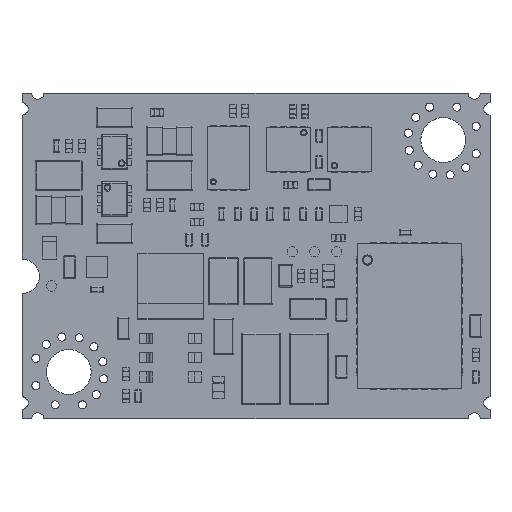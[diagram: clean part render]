
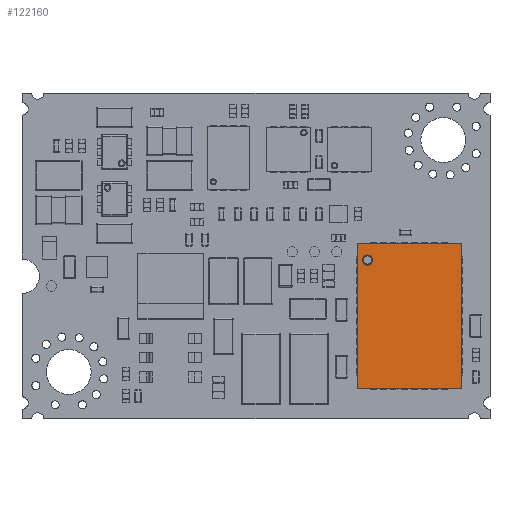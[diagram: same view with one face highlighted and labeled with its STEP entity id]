
A CAD part, top view. The second image highlights one B-rep face of the part: STEP entity #122160.
In plain terms, the highlighted planar face has unit normal (0, 0, 1).
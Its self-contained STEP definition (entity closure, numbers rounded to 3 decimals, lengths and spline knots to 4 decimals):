
#11227=DIRECTION('',(0.,1.,0.));
#11228=VECTOR('',#11227,7.1);
#11229=CARTESIAN_POINT('',(16.48,1.5,1.));
#11230=LINE('',#11229,#11228);
#12073=DIRECTION('',(-1.,0.,0.));
#12074=VECTOR('',#12073,5.1);
#12075=CARTESIAN_POINT('',(21.58,1.5,1.));
#12076=LINE('',#12075,#12074);
#12139=CARTESIAN_POINT('',(16.98,7.8,1.));
#12140=DIRECTION('',(0.,0.,-1.));
#12141=DIRECTION('',(1.,0.,0.));
#12142=AXIS2_PLACEMENT_3D('',#12139,#12140,#12141);
#12144=CARTESIAN_POINT('',(16.98,7.8,1.));
#12145=DIRECTION('',(0.,0.,-1.));
#12146=DIRECTION('',(-1.,0.,0.));
#12147=AXIS2_PLACEMENT_3D('',#12144,#12145,#12146);
#12169=DIRECTION('',(1.,0.,0.));
#12170=VECTOR('',#12169,5.1);
#12171=CARTESIAN_POINT('',(16.48,8.6,1.));
#12172=LINE('',#12171,#12170);
#12235=DIRECTION('',(0.,-1.,0.));
#12236=VECTOR('',#12235,7.1);
#12237=CARTESIAN_POINT('',(21.58,8.6,1.));
#12238=LINE('',#12237,#12236);
#91233=CARTESIAN_POINT('',(16.73,7.8,1.));
#91234=VERTEX_POINT('',#91233);
#91235=CARTESIAN_POINT('',(17.23,7.8,1.));
#91236=VERTEX_POINT('',#91235);
#91238=CARTESIAN_POINT('',(16.48,8.6,1.));
#91240=VERTEX_POINT('',#91238);
#91241=CARTESIAN_POINT('',(21.58,8.6,1.));
#91242=VERTEX_POINT('',#91241);
#91246=CARTESIAN_POINT('',(16.48,1.5,1.));
#91248=VERTEX_POINT('',#91246);
#91250=CARTESIAN_POINT('',(21.58,1.5,1.));
#91252=VERTEX_POINT('',#91250);
#122141=CARTESIAN_POINT('',(19.03,5.05,1.));
#122142=DIRECTION('',(0.,0.,1.));
#122143=DIRECTION('',(-1.,0.,0.));
#122144=AXIS2_PLACEMENT_3D('',#122141,#122142,#122143);
#122145=PLANE('',#122144);
#122147=ORIENTED_EDGE('',*,*,#122146,.T.);
#122149=ORIENTED_EDGE('',*,*,#122148,.T.);
#122150=ORIENTED_EDGE('',*,*,#122004,.T.);
#122151=ORIENTED_EDGE('',*,*,#120737,.T.);
#122152=EDGE_LOOP('',(#122147,#122149,#122150,#122151));
#122153=FACE_OUTER_BOUND('',#122152,.F.);
#122155=ORIENTED_EDGE('',*,*,#122154,.F.);
#122157=ORIENTED_EDGE('',*,*,#122156,.F.);
#122158=EDGE_LOOP('',(#122155,#122157));
#122159=FACE_BOUND('',#122158,.F.);
#122160=ADVANCED_FACE('',(#122153,#122159),#122145,.T.);
#12143=CIRCLE('',#12142,0.25);
#12148=CIRCLE('',#12147,0.25);
#120737=EDGE_CURVE('',#91248,#91240,#11230,.T.);
#122004=EDGE_CURVE('',#91252,#91248,#12076,.T.);
#122146=EDGE_CURVE('',#91240,#91242,#12172,.T.);
#122148=EDGE_CURVE('',#91242,#91252,#12238,.T.);
#122154=EDGE_CURVE('',#91236,#91234,#12143,.T.);
#122156=EDGE_CURVE('',#91234,#91236,#12148,.T.);
